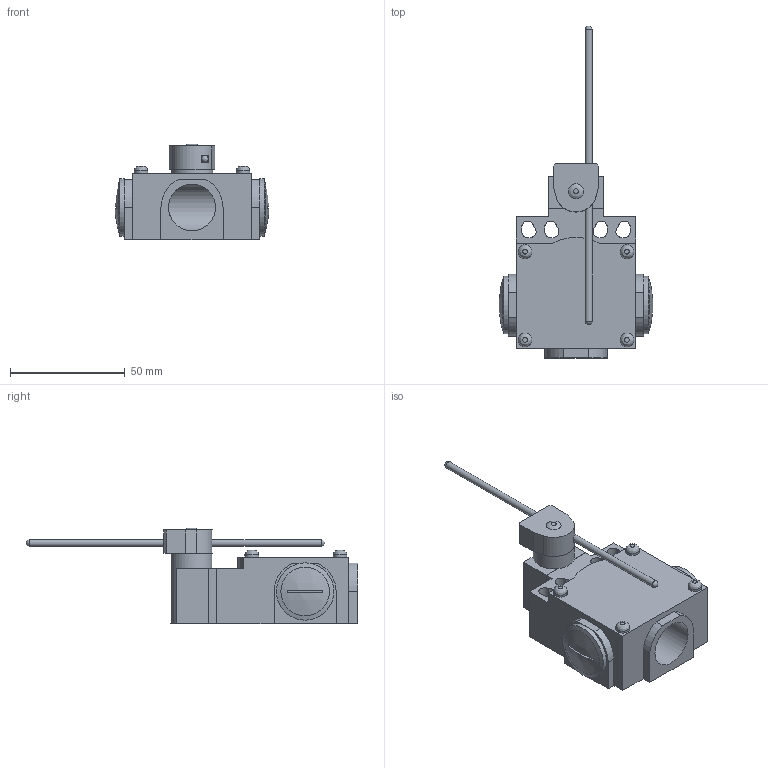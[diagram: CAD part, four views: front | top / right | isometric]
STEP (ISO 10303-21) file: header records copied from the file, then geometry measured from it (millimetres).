
FILE_DESCRIPTION((''),'2;1');
FILE_NAME('D:\Documenti_D\Corrispondenza\Comepi\Catalogo da fare\Modelli Nov 2011\DM e CM\STEP\DM1-F71.iam.step','2011-11-17T12:01:10',(''),(''),'Autodesk Inventor 2010','Autodesk Inventor 2010','');
FILE_SCHEMA(('AUTOMOTIVE_DESIGN { 1 0 10303 214 1 1 1 1 }'));
Length unit declared in the file: millimetre
Products named in the file (8): DM1-F71; DM1; tappo; T71.iam; T71_1; T71_2; T71_3
Assembly tree (8 placements, depth 3):
  DM1-F71
    DM1
      DM1
      tappo  x2
    T71.iam
      T71_1
      T71_2
      T71_3
Bounding box: 66.83 x 144.49 x 41.7 mm (x, y, z)
Volume: 83685.6 mm3; surface area: 27333.2 mm2
Topology: 6 solids, 6 shells, 115 faces, 293 edges, 192 vertices
Faces by surface type: plane 73, cylinder 30, bspline 5, sphere 4, cone 3
Full cylindrical faces by diameter (mm): 3 x1, 6 x4, 18 x1, 20.4 x2, 25 x2
Entity records: 3604 total; most frequent: CARTESIAN_POINT 819, DIRECTION 552, ORIENTED_EDGE 492, EDGE_CURVE 246, AXIS2_PLACEMENT_3D 191, VERTEX_POINT 171, VECTOR 170, LINE 170
